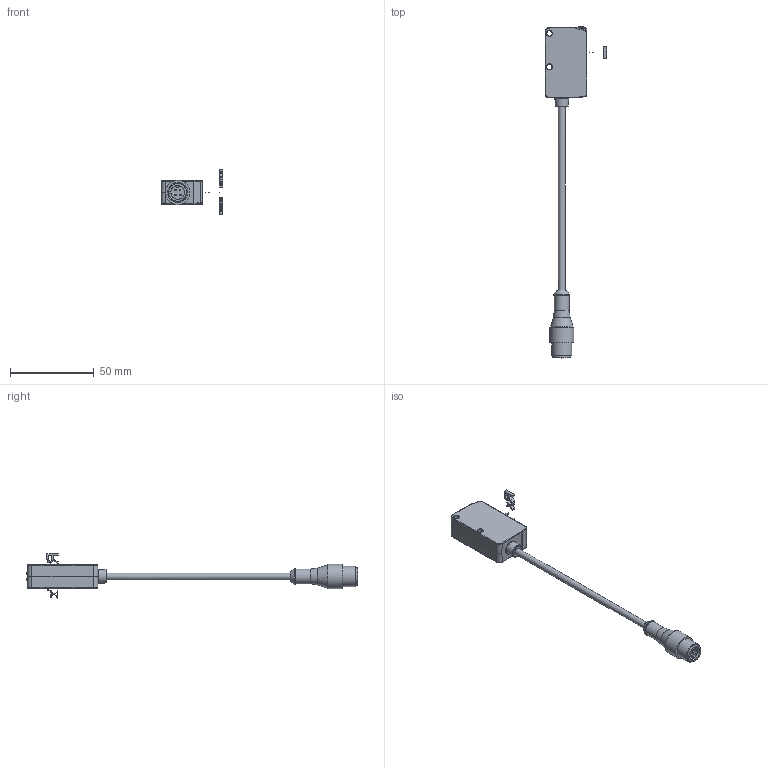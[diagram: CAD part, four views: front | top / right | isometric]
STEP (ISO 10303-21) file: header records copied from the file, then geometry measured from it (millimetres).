
FILE_DESCRIPTION(/* description */ (''),/* implementation_level */ '2;1');
FILE_NAME(/* name */ 'DSD-0192.stp',/* time_stamp */ '2020-09-21T09:47:25+02:00',/* author */ (''),/* organization */ (''),/* preprocessor_version */ 'ST-DEVELOPER v16.7',/* originating_system */ 'SIEMENS PLM Software NX 12.0',/* authorisation */ '');
FILE_SCHEMA (('AUTOMOTIVE_DESIGN { 1 0 10303 214 3 1 1 1 }'));
Length unit declared in the file: millimetre
Products named in the file (1): MBra1AA8D80Dzyr7
Bounding box: 37 x 198.3 x 26.68 mm (x, y, z)
Volume: 20926.6 mm3; surface area: 8652.5 mm2
Topology: 7 solids, 9 shells, 469 faces, 1172 edges, 733 vertices
Faces by surface type: bspline 468, plane 1
Entity records: 23473 total; most frequent: CARTESIAN_POINT 13433, ORIENTED_EDGE 2219, EDGE_CURVE 1112, VERTEX_POINT 732, B_SPLINE_CURVE_WITH_KNOTS 672, EDGE_LOOP 543, PRESENTATION_STYLE_ASSIGNMENT 476, SURFACE_STYLE_USAGE 476
